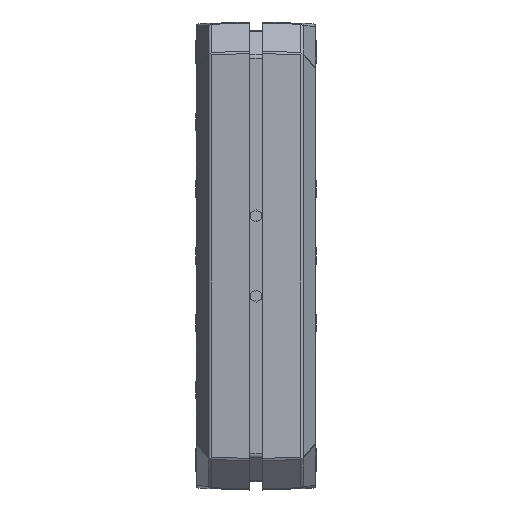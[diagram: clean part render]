
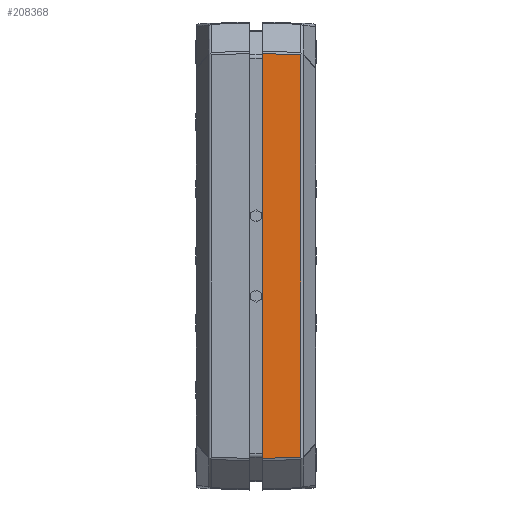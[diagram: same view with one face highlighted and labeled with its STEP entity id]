
A CAD part, left-side view. The second image highlights one B-rep face of the part: STEP entity #208368.
In plain terms, the highlighted planar face has unit normal (-0.999, -0.035, 0).
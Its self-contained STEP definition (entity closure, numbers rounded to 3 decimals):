
#10825 = VERTEX_POINT ( 'NONE', #81617 ) ;
#30007 = EDGE_CURVE ( 'NONE', #30862, #10825, #113824, .T. ) ;
#30862 = VERTEX_POINT ( 'NONE', #188010 ) ;
#34579 = DIRECTION ( 'NONE',  ( 0., 0., 1. ) ) ;
#35260 = DIRECTION ( 'NONE',  ( -0.999, -0.035, 0. ) ) ;
#54447 = VECTOR ( 'NONE', #157637, 1000. ) ;
#81617 = CARTESIAN_POINT ( 'NONE',  ( -62.43, -2., 60.51 ) ) ;
#104301 = CARTESIAN_POINT ( 'NONE',  ( -62.43, -2., -70. ) ) ;
#113824 = LINE ( 'NONE', #104301, #162163 ) ;
#121878 = VECTOR ( 'NONE', #286645, 1000. ) ;
#128268 = CARTESIAN_POINT ( 'NONE',  ( -62.033, -13.366, 60.113 ) ) ;
#128982 = EDGE_CURVE ( 'NONE', #231837, #30862, #244346, .T. ) ;
#129276 = VECTOR ( 'NONE', #185888, 1000. ) ;
#132062 = CARTESIAN_POINT ( 'NONE',  ( -62.5, 0., -70. ) ) ;
#141369 = ORIENTED_EDGE ( 'NONE', *, *, #128982, .F. ) ;
#144120 = LINE ( 'NONE', #162018, #129276 ) ;
#144280 = CARTESIAN_POINT ( 'NONE',  ( -62.012, -13.988, 60.092 ) ) ;
#155732 = ORIENTED_EDGE ( 'NONE', *, *, #208634, .F. ) ;
#155945 = PLANE ( 'NONE',  #285659 ) ;
#157637 = DIRECTION ( 'NONE',  ( -0.035, 0.999, -0.035 ) ) ;
#160827 = EDGE_CURVE ( 'NONE', #10825, #266524, #248431, .T. ) ;
#162018 = CARTESIAN_POINT ( 'NONE',  ( -62.033, -13.366, -60.495 ) ) ;
#162163 = VECTOR ( 'NONE', #34579, 1000. ) ;
#179770 = DIRECTION ( 'NONE',  ( -0.035, 0.999, 0. ) ) ;
#181400 = FACE_OUTER_BOUND ( 'NONE', #230176, .T. ) ;
#185888 = DIRECTION ( 'NONE',  ( 0., 0., -1. ) ) ;
#188010 = CARTESIAN_POINT ( 'NONE',  ( -62.43, -2., -60.5 ) ) ;
#208368 = ADVANCED_FACE ( 'NONE', ( #181400 ), #155945, .T. ) ;
#208634 = EDGE_CURVE ( 'NONE', #266524, #231837, #144120, .T. ) ;
#220378 = CARTESIAN_POINT ( 'NONE',  ( -62.033, -13.366, -60.103 ) ) ;
#230176 = EDGE_LOOP ( 'NONE', ( #155732, #236811, #308525, #141369 ) ) ;
#231837 = VERTEX_POINT ( 'NONE', #220378 ) ;
#236811 = ORIENTED_EDGE ( 'NONE', *, *, #160827, .F. ) ;
#244346 = LINE ( 'NONE', #251211, #54447 ) ;
#248431 = LINE ( 'NONE', #144280, #121878 ) ;
#251211 = CARTESIAN_POINT ( 'NONE',  ( -62.431, -1.986, -60.5 ) ) ;
#266524 = VERTEX_POINT ( 'NONE', #128268 ) ;
#285659 = AXIS2_PLACEMENT_3D ( 'NONE', #132062, #35260, #179770 ) ;
#286645 = DIRECTION ( 'NONE',  ( 0.035, -0.999, -0.035 ) ) ;
#308525 = ORIENTED_EDGE ( 'NONE', *, *, #30007, .F. ) ;
